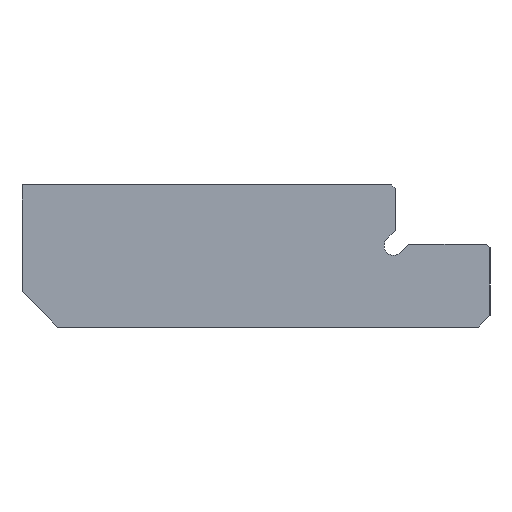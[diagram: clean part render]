
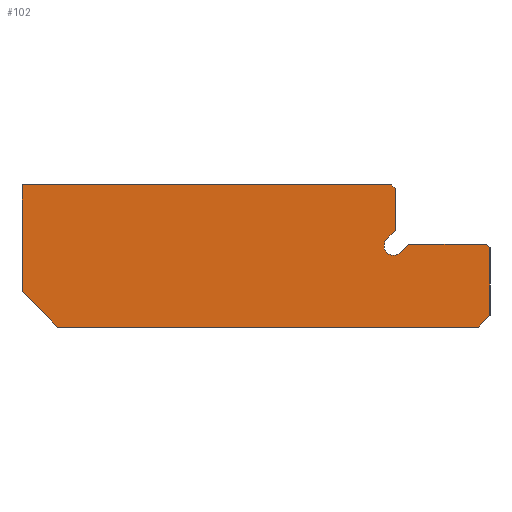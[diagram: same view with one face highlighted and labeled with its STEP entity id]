
A CAD part, left-side view. The second image highlights one B-rep face of the part: STEP entity #102.
In plain terms, the highlighted planar face has unit normal (-1, 0, 0).
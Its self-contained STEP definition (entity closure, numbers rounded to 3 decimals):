
#102=ADVANCED_FACE('NONE',(#203),#204,.F.);
#203=FACE_OUTER_BOUND('',#302,.T.);
#204=PLANE('',#303);
#302=EDGE_LOOP('',(#463,#464,#465,#466,#467,#468,#469,#470,#471,#472,#473,#474,#475,#476));
#303=AXIS2_PLACEMENT_3D('',#477,#478,#479);
#463=ORIENTED_EDGE('',*,*,#642,.F.);
#464=ORIENTED_EDGE('',*,*,#653,.T.);
#465=ORIENTED_EDGE('',*,*,#635,.F.);
#466=ORIENTED_EDGE('',*,*,#654,.T.);
#467=ORIENTED_EDGE('',*,*,#588,.T.);
#468=ORIENTED_EDGE('',*,*,#655,.T.);
#469=ORIENTED_EDGE('',*,*,#656,.T.);
#470=ORIENTED_EDGE('',*,*,#632,.F.);
#471=ORIENTED_EDGE('',*,*,#657,.T.);
#472=ORIENTED_EDGE('',*,*,#624,.F.);
#473=ORIENTED_EDGE('',*,*,#621,.F.);
#474=ORIENTED_EDGE('',*,*,#658,.T.);
#475=ORIENTED_EDGE('',*,*,#614,.F.);
#476=ORIENTED_EDGE('',*,*,#659,.T.);
#477=CARTESIAN_POINT('',(-62.5,0.0,0.0));
#478=DIRECTION('',(1.0,0.0,0.0));
#479=DIRECTION('',(0.0,-1.0,0.0));
#588=EDGE_CURVE('NONE',#683,#680,#684,.T.);
#614=EDGE_CURVE('NONE',#728,#730,#731,.T.);
#621=EDGE_CURVE('NONE',#739,#741,#742,.T.);
#624=EDGE_CURVE('NONE',#741,#745,#746,.T.);
#632=EDGE_CURVE('NONE',#756,#758,#759,.T.);
#635=EDGE_CURVE('NONE',#762,#763,#764,.T.);
#642=EDGE_CURVE('NONE',#774,#776,#777,.T.);
#653=EDGE_CURVE('NONE',#774,#763,#789,.T.);
#654=EDGE_CURVE('NONE',#762,#683,#790,.T.);
#655=EDGE_CURVE('NONE',#680,#791,#792,.T.);
#656=EDGE_CURVE('NONE',#791,#758,#793,.T.);
#657=EDGE_CURVE('NONE',#756,#745,#794,.T.);
#658=EDGE_CURVE('NONE',#739,#730,#795,.T.);
#659=EDGE_CURVE('NONE',#728,#776,#796,.T.);
#680=VERTEX_POINT('',#817);
#683=VERTEX_POINT('NONE',#821);
#684=CIRCLE('',#822,0.8);
#728=VERTEX_POINT('NONE',#876);
#730=VERTEX_POINT('NONE',#879);
#731=LINE('',#880,#881);
#739=VERTEX_POINT('NONE',#891);
#741=VERTEX_POINT('NONE',#894);
#742=LINE('',#895,#896);
#745=VERTEX_POINT('NONE',#900);
#746=LINE('',#901,#902);
#756=VERTEX_POINT('NONE',#915);
#758=VERTEX_POINT('NONE',#918);
#759=LINE('',#919,#920);
#762=VERTEX_POINT('NONE',#924);
#763=VERTEX_POINT('NONE',#925);
#764=LINE('',#926,#927);
#774=VERTEX_POINT('NONE',#941);
#776=VERTEX_POINT('NONE',#944);
#777=LINE('',#945,#946);
#789=LINE('',#965,#966);
#790=LINE('',#967,#968);
#791=VERTEX_POINT('NONE',#969);
#792=CIRCLE('',#970,0.8);
#793=LINE('',#971,#972);
#794=LINE('',#973,#974);
#795=LINE('',#975,#976);
#796=LINE('',#977,#978);
#817=CARTESIAN_POINT('',(-62.5,-31.359,6.059));
#821=CARTESIAN_POINT('',(-62.5,-31.924,6.293));
#822=AXIS2_PLACEMENT_3D('',#1000,#1001,#1002);
#876=CARTESIAN_POINT('',(-62.5,-38.5,0.));
#879=CARTESIAN_POINT('',(-62.5,-3.,0.));
#880=CARTESIAN_POINT('',(-62.5,-39.5,0.));
#881=VECTOR('',#1041,1000.0);
#891=CARTESIAN_POINT('',(-62.5,0.,3.0));
#894=CARTESIAN_POINT('',(-62.5,0.0,12.0));
#895=CARTESIAN_POINT('',(-62.5,0.0,0.0));
#896=VECTOR('',#1051,1000.0);
#900=CARTESIAN_POINT('',(-62.5,-31.2,12.0));
#901=CARTESIAN_POINT('',(-62.5,0.0,12.0));
#902=VECTOR('',#1053,1000.0);
#915=CARTESIAN_POINT('',(-62.5,-31.5,11.7));
#918=CARTESIAN_POINT('',(-62.5,-31.5,8.131));
#919=CARTESIAN_POINT('',(-62.5,-31.5,12.0));
#920=VECTOR('',#1064,1000.0);
#924=CARTESIAN_POINT('',(-62.5,-32.631,7.0));
#925=CARTESIAN_POINT('',(-62.5,-39.2,7.0));
#926=CARTESIAN_POINT('',(-62.5,-31.5,7.0));
#927=VECTOR('',#1066,1000.0);
#941=CARTESIAN_POINT('',(-62.5,-39.5,6.7));
#944=CARTESIAN_POINT('',(-62.5,-39.5,1.));
#945=CARTESIAN_POINT('',(-62.5,-39.5,7.0));
#946=VECTOR('',#1072,1000.0);
#965=CARTESIAN_POINT('',(-62.5,-39.5,6.7));
#966=VECTOR('',#1083,1000.0);
#967=CARTESIAN_POINT('',(-62.5,-32.631,7.0));
#968=VECTOR('',#1084,1000.0);
#969=CARTESIAN_POINT('',(-62.5,-30.793,7.424));
#970=AXIS2_PLACEMENT_3D('',#1085,#1086,#1087);
#971=CARTESIAN_POINT('',(-62.5,-30.793,7.424));
#972=VECTOR('',#1088,1000.0);
#973=CARTESIAN_POINT('',(-62.5,-31.5,11.7));
#974=VECTOR('',#1089,1000.0);
#975=CARTESIAN_POINT('',(-62.5,0.0,3.0));
#976=VECTOR('',#1090,1000.0);
#977=CARTESIAN_POINT('',(-62.5,-38.5,0.));
#978=VECTOR('',#1091,1000.0);
#1000=CARTESIAN_POINT('',(-62.5,-31.359,6.859));
#1001=DIRECTION('',(1.0,0.0,-0.0));
#1002=DIRECTION('',(0.0,0.0,1.0));
#1041=DIRECTION('',(0.0,1.0,0.));
#1051=DIRECTION('',(0.0,0.0,1.0));
#1053=DIRECTION('',(0.0,-1.0,0.0));
#1064=DIRECTION('',(0.0,0.0,-1.0));
#1066=DIRECTION('',(0.0,-1.0,0.0));
#1072=DIRECTION('',(0.0,0.0,-1.0));
#1083=DIRECTION('',(-0.0,0.707,0.707));
#1084=DIRECTION('',(0.0,0.707,-0.707));
#1085=CARTESIAN_POINT('',(-62.5,-31.359,6.859));
#1086=DIRECTION('',(1.0,0.0,-0.0));
#1087=DIRECTION('',(0.0,0.0,1.0));
#1088=DIRECTION('',(0.0,-0.707,0.707));
#1089=DIRECTION('',(-0.0,0.707,0.707));
#1090=DIRECTION('',(0.0,-0.707,-0.707));
#1091=DIRECTION('',(0.0,-0.707,0.707));
